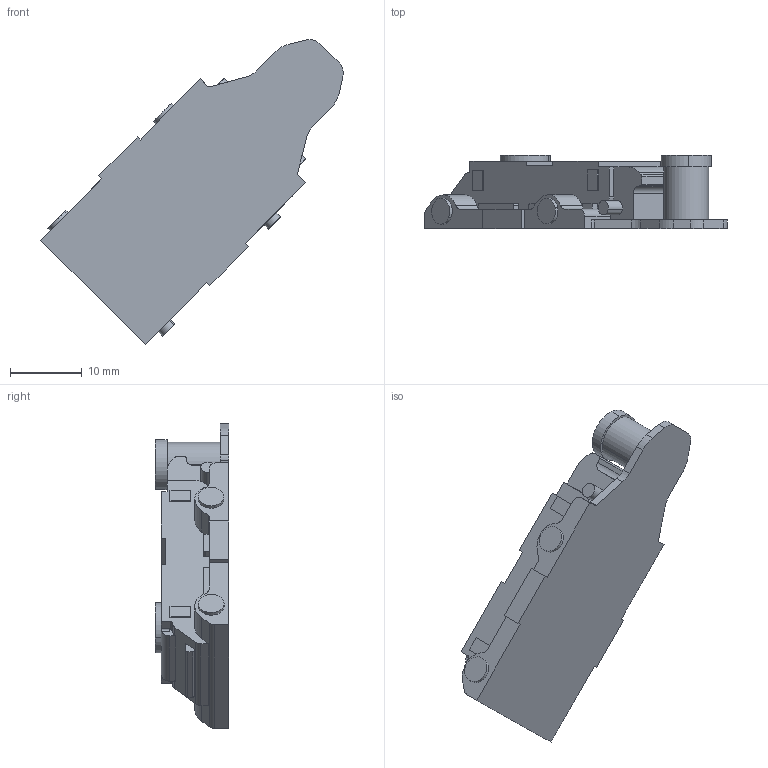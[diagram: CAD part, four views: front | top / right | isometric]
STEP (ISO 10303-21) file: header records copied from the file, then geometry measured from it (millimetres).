
FILE_DESCRIPTION (( 'STEP AP203' ), '1' );
FILE_NAME ('82H02YQ105-DTC 3D.STEP', '2024-07-11T02:07:21', ( '微软用户' ), ( '微软中国' ), 'SwSTEP 2.0', 'SolidWorks 2021', '' );
FILE_SCHEMA (( 'CONFIG_CONTROL_DESIGN' ));
Length unit declared in the file: millimetre
Products named in the file (1): 82H02YQ105-DTC 3D
Bounding box: 42.28 x 10.25 x 42.59 mm (x, y, z)
Volume: 5304.8 mm3; surface area: 2954.6 mm2
Topology: 1 solids, 1 shells, 189 faces, 518 edges, 345 vertices
Faces by surface type: plane 120, cylinder 65, bspline 4
Entity records: 6142 total; most frequent: CARTESIAN_POINT 1158, ORIENTED_EDGE 1036, DIRECTION 1009, EDGE_CURVE 518, LINE 377, VECTOR 377, VERTEX_POINT 345, AXIS2_PLACEMENT_3D 316
